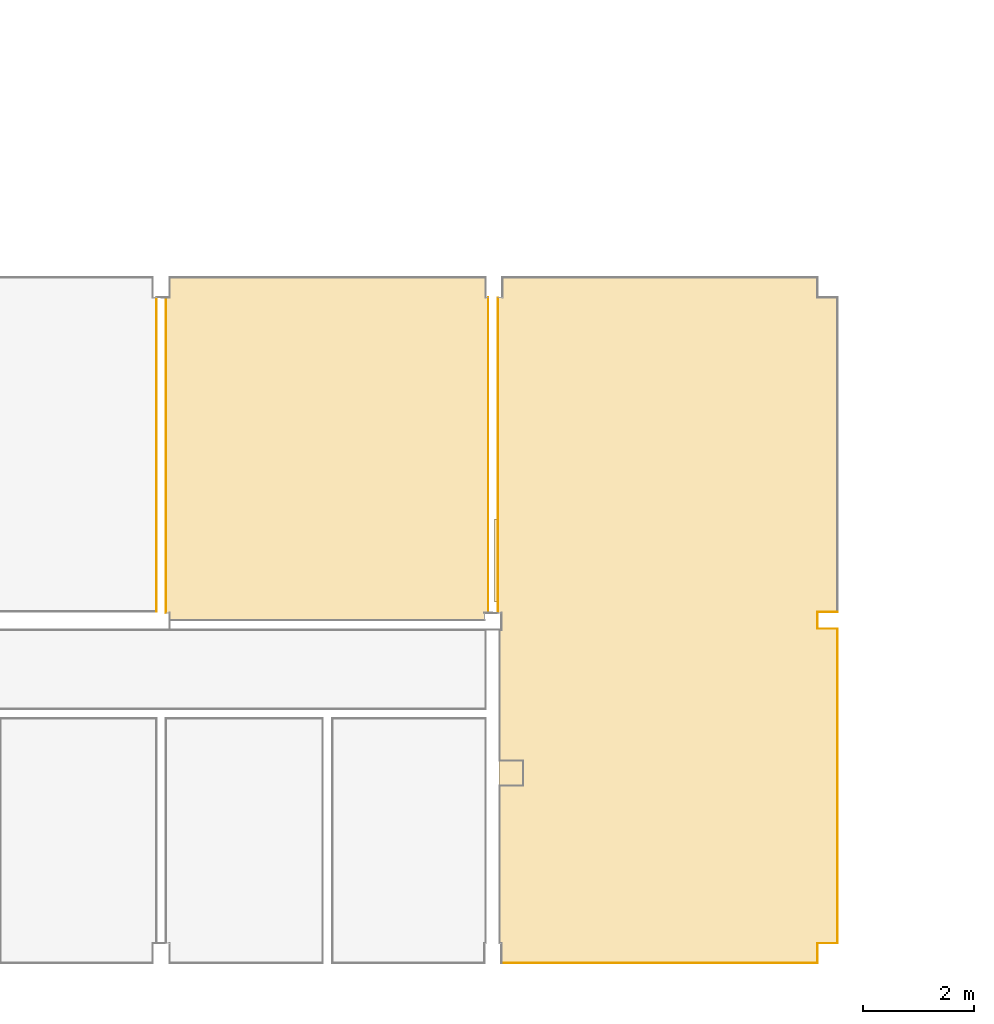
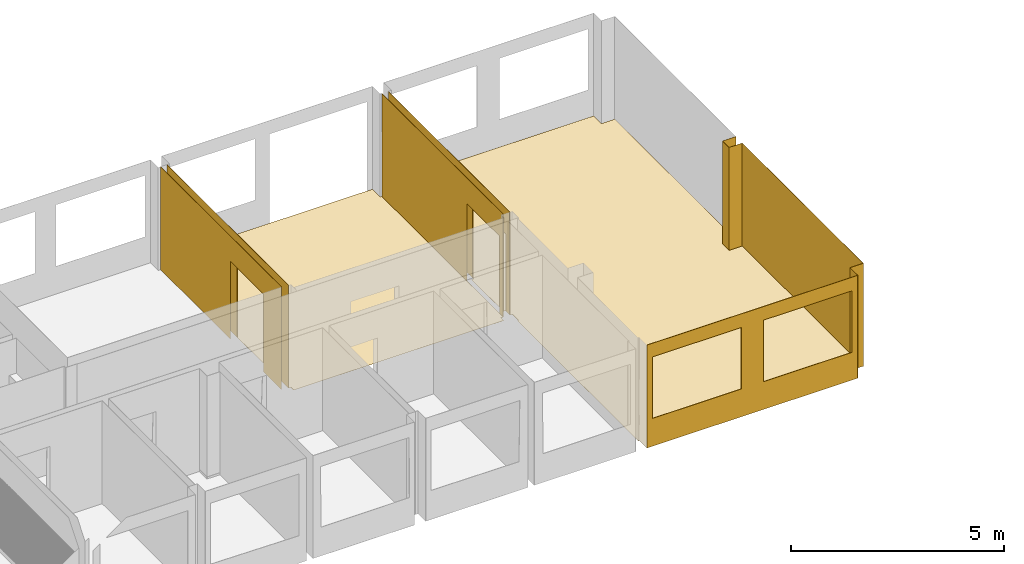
# One storey, part 22 of 33: 13 coverings, 6 openings.
"""IFC2X3 building model written with IfcOpenShell, lengths in millimetres."""

from ifc_helpers import new_model, entity, si_unit, converted_unit, derived_unit, money_unit, direction, frame, origin_with_axes, origin_2d_with_axis, place, context, subcontext, project, spatial, polyline, rectangle, outline, extrude, material, type_object, element, save


model = new_model("IFC2X3")

# Units and contexts
model_context = context("Model", 3, precision=0.01, world=origin_with_axes(), true_north=direction((0.0, 1.0)))
body_context = subcontext(model_context, "Body", "Model", "MODEL_VIEW")
ifc_project = project(units=[si_unit("LENGTHUNIT", "METRE", prefix="MILLI"), si_unit("AREAUNIT", "SQUARE_METRE"), si_unit("VOLUMEUNIT", "CUBIC_METRE"), converted_unit("PLANEANGLEUNIT", "DEGREE", entity("IfcPlaneAngleMeasure", 0.0174532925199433), si_unit("PLANEANGLEUNIT", "RADIAN"), dimensions=[0, 0, 0, 0, 0, 0, 0]), money_unit("EUR"), converted_unit("TIMEUNIT", "Year", entity("IfcTimeMeasure", 31556926.0), si_unit("TIMEUNIT", "SECOND"), dimensions=[0, 0, 1, 0, 0, 0, 0]), si_unit("MASSUNIT", "GRAM", prefix="KILO"), si_unit("THERMODYNAMICTEMPERATUREUNIT", "DEGREE_CELSIUS"), si_unit("LUMINOUSINTENSITYUNIT", "LUMEN"), si_unit("ENERGYUNIT", "JOULE", prefix="MEGA"), derived_unit("THERMALCONDUCTANCEUNIT", [(si_unit("POWERUNIT", "WATT"), 1), (si_unit("LENGTHUNIT", "METRE"), -1), (si_unit("THERMODYNAMICTEMPERATUREUNIT", "KELVIN"), -1)]), derived_unit("SPECIFICHEATCAPACITYUNIT", [(si_unit("ENERGYUNIT", "JOULE"), 1), (si_unit("MASSUNIT", "GRAM", prefix="KILO"), -1), (si_unit("THERMODYNAMICTEMPERATUREUNIT", "KELVIN"), -1)]), derived_unit("MASSDENSITYUNIT", [(si_unit("MASSUNIT", "GRAM", prefix="KILO"), 1), (si_unit("VOLUMEUNIT", "CUBIC_METRE"), -1)])], contexts=[model_context])

# Site, building, storey
site_placement = place(None, origin_with_axes())
site = spatial("IfcSite", under=ifc_project, at=site_placement, Name="Paldiski mnt 245/1, Tallinn, Harjumaa", CompositionType="COMPLEX")
building_placement = place(site_placement, origin_with_axes())
building = spatial("IfcBuilding", under=site, at=building_placement, Name="RKAS Hoone üldnimetus (kasutust iseloomustav) -> IFC Project Manager -> SOLIBRI", CompositionType="ELEMENT")
storey_placement = place(building_placement, origin_with_axes())
storey = spatial("IfcBuildingStorey", under=building, at=storey_placement, Name="Esimene korrus", CompositionType="ELEMENT", Elevation=0.0)

# Coverings
ifc_material_1 = material(Name="SA- Värv SM5(valge)")
covering_type_1 = type_object("IfcCoveringType", Name="SA- Värv SM5(valge) 5", PredefinedType="CLADDING")
covering_1_placement = place(storey_placement, frame((-17230.00000000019, -6459.999999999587, 0.0), z_axis=(0.0, 0.0, 1.0), x_axis=(-1.0, 0.0, 0.0)))
element("IfcCovering", 1, at=covering_1_placement, inside=storey, type_object=covering_type_1, material=ifc_material_1, Name="SM5", PredefinedType="CLADDING", context=body_context, shape_type="SweptSolid", body=[
    extrude(outline(polyline([(0.0, 0.0), (359.9999999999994, 0.0), (364.9999999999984, 4.999999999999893), (0.0, 4.999999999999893), (0.0, 0.0)])), origin_with_axes(), (0.0, 0.0, 1.0), 2950.0),
])
covering_2_placement = place(storey_placement, frame((-17590.00000000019, -6459.999999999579, 0.0), z_axis=(0.0, 0.0, 1.0), x_axis=(0.0, 1.0, 0.0)))
element("IfcCovering", 2, at=covering_2_placement, inside=storey, type_object=covering_type_1, material=ifc_material_1, Name="SM5", PredefinedType="CLADDING", context=body_context, shape_type="SweptSolid", body=[
    extrude(outline(polyline([(0.0, 0.0), (300.0000000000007, 0.0), (305.0000000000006, 4.999999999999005), (-4.999999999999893, 4.999999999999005), (0.0, 0.0)])), origin_with_axes(), (0.0, 0.0, 1.0), 2950.0),
])
covering_3_placement = place(storey_placement, frame((-17590.0000000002, -6159.999999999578, 0.0), z_axis=(0.0, 0.0, 1.0), x_axis=(1.0, 0.0, 0.0)))
element("IfcCovering", 3, at=covering_3_placement, inside=storey, type_object=covering_type_1, material=ifc_material_1, Name="SM5", PredefinedType="CLADDING", context=body_context, shape_type="SweptSolid", body=[
    extrude(outline(polyline([(0.0, 0.0), (360.0000000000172, 0.0), (360.0000000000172, 4.999999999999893), (-4.999999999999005, 4.999999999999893), (0.0, 0.0)])), origin_with_axes(), (0.0, 0.0, 1.0), 2950.0),
])

# Covering, opening
covering_4_placement = place(storey_placement, frame((-29545.00000000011, -6154.000015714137, 0.0), z_axis=(0.0, 0.0, 1.0), x_axis=(0.0, 1.0, 0.0)))
covering_4 = element("IfcCovering", 4, at=covering_4_placement, inside=storey, type_object=covering_type_1, material=ifc_material_1, Name="SM5", PredefinedType="CLADDING", context=body_context, shape_type="SweptSolid", body=[
    extrude(outline(polyline([(0.0, 0.0), (5684.000015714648, 0.0), (5679.000015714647, 4.999999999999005), (0.0, 4.999999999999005), (0.0, 0.0)])), origin_with_axes(), (0.0, 0.0, 1.0), 2950.0),
])
opening_1_placement = place(covering_4_placement, frame((6154.000015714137, -29545.00000000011, 0.0), z_axis=(0.0, 0.0, 1.0), x_axis=(0.0, -1.0, 0.0)))
element("IfcOpeningElement", 5, at=opening_1_placement, cuts=covering_4, Name="AVA", ObjectType="OPENING", context=body_context, shape_type="SweptSolid", body=[
    extrude(rectangle(XDim=1553.138941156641, YDim=2235.345721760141, at=origin_2d_with_axis()), frame((-29539.99999999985, -4533.601864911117, 1114.853377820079), z_axis=(1.0, 0.0, 0.0), x_axis=(0.0, 1.0, 0.0)), (0.0, 0.0, -1.0), 15.00000000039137),
])

covering_5_placement = place(storey_placement, frame((-29374.99999999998, -469.9999999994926, 0.0), z_axis=(0.0, 0.0, 1.0), x_axis=(0.0, -1.0, 0.0)))
covering_5 = element("IfcCovering", 6, at=covering_5_placement, inside=storey, type_object=covering_type_1, material=ifc_material_1, Name="SM5", PredefinedType="CLADDING", context=body_context, shape_type="SweptSolid", body=[
    extrude(outline(polyline([(4.999999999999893, 0.0), (5710.000015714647, 0.0), (5705.000014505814, 4.999999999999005), (4.999999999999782, 4.999999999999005), (4.999999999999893, 0.0)])), origin_with_axes(), (0.0, 0.0, 1.0), 2950.0),
])
opening_2_placement = place(covering_5_placement, frame((-469.9999999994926, 29374.99999999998, 0.0), z_axis=(0.0, 0.0, 1.0), x_axis=(0.0, 1.0, 0.0)))
element("IfcOpeningElement", 7, at=opening_2_placement, cuts=covering_5, Name="AVA", ObjectType="OPENING", context=body_context, shape_type="SweptSolid", body=[
    extrude(rectangle(XDim=1599.655916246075, YDim=2246.900341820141, at=origin_2d_with_axis()), frame((-29380.00000000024, -4572.605032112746, 1104.397825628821), z_axis=(-1.0, 0.0, 0.0), x_axis=(0.0, -1.0, 0.0)), (0.0, 0.0, -1.0), 15.00000000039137),
])

covering_6_placement = place(storey_placement, frame((-23545.0000000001, -6179.999999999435, 0.0), z_axis=(0.0, 0.0, 1.0), x_axis=(1.282268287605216e-08, 1.0, 0.0)))
covering_6 = element("IfcCovering", 8, at=covering_6_placement, inside=storey, type_object=covering_type_1, material=ifc_material_1, Name="SM5", PredefinedType="CLADDING", context=body_context, shape_type="SweptSolid", body=[
    extrude(outline(polyline([(4.999999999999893, 0.0), (5709.999856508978, 0.0), (5704.99987238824, 4.999999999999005), (4.999999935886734, 5.000000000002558), (4.999999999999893, 0.0)])), origin_with_axes(), (0.0, 0.0, 1.0), 2950.0),
])
opening_3_placement = place(covering_6_placement, frame((6180.000301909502, -23544.99992075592, 0.0), z_axis=(0.0, 0.0, 1.0), x_axis=(1.282268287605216e-08, -1.0, 0.0)))
element("IfcOpeningElement", 9, at=opening_3_placement, cuts=covering_6, Name="AVA", ObjectType="OPENING", context=body_context, shape_type="SweptSolid", body=[
    extrude(rectangle(XDim=1537.269093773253, YDim=2216.009422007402, at=origin_2d_with_axis()), frame((-23539.99985356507, -5238.080696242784, 1110.797736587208), z_axis=(1.0, -1.282268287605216e-08, 0.0), x_axis=(1.282268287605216e-08, 1.0, 0.0)), (0.0, 0.0, -1.0), 15.00021965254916),
])

covering_7_placement = place(storey_placement, frame((-23375.0000371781, -470.0000148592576, 0.0), z_axis=(0.0, 0.0, 1.0), x_axis=(6.511032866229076e-09, -1.0, 0.0)))
covering_7 = element("IfcCovering", 10, at=covering_7_placement, inside=storey, type_object=covering_type_1, material=ifc_material_1, Name="SM5", PredefinedType="CLADDING", context=body_context, shape_type="SweptSolid", body=[
    extrude(outline(polyline([(4.999999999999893, 0.0), (5709.99998514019, 0.0), (5704.999985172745, 5.000000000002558), (4.9999991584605, 4.999999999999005), (4.999999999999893, 0.0)])), origin_with_axes(), (0.0, 0.0, 1.0), 2950.0),
])
opening_4_placement = place(covering_7_placement, frame((-469.9998626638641, 23375.00004023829, 0.0), z_axis=(0.0, 0.0, 1.0), x_axis=(6.511032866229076e-09, 1.0, 0.0)))
element("IfcOpeningElement", 11, at=opening_4_placement, cuts=covering_7, Name="AVA", ObjectType="OPENING", context=body_context, shape_type="SweptSolid", body=[
    extrude(rectangle(XDim=1561.764127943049, YDim=2226.43972239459, at=origin_2d_with_axis()), frame((-23380.0000743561, -5218.545088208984, 1098.145229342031), z_axis=(-1.0, -6.511032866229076e-09, 0.0), x_axis=(6.511032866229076e-09, -1.0, 0.0)), (0.0, 0.0, -1.0), 15.00011153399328),
])

# Coverings
ifc_material_2 = material(Name="SA- PM-8 EPO lakk")
covering_type_2 = type_object("IfcCoveringType", Name="SA- PM-8 EPO lakk 1", PredefinedType="FLOORING")
covering_8_placement = place(storey_placement, frame((-17590.00000000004, -109.9999999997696, 0.0), z_axis=(0.0, 0.0, 1.0), x_axis=(1.0, 0.0, 0.0)))
element("IfcCovering", 12, at=covering_8_placement, inside=storey, type_object=covering_type_2, material=ifc_material_2, Name="PM-8", PredefinedType="FLOORING", context=body_context, shape_type="SweptSolid", body=[
    extrude(outline(polyline([(0.0, 0.0), (-5699.999999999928, 1.348365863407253e-10), (-5699.999999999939, -359.9999999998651), (-5785.000037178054, -360.000014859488), (-5785.000000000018, -4369.999914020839), (-5839.773978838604, -4369.999914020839), (-5839.773978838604, -5869.999914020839), (-5785.000000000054, -5869.999914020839), (-5785.000000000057, -6069.999999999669), (-5720.00000000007, -6069.999999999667), (-5720.000000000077, -6369.999999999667), (-5750.000000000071, -6369.999999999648), (-5750.000000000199, -12040.08408706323), (-5720.000000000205, -12040.08408706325), (-5720.000000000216, -12400.08408706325), (-2.842170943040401e-10, -12400.08430108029), (-2.771116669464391e-10, -12040.08430108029), (359.9999999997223, -12040.0843010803), (359.9999999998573, -6349.999999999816), (-1.4210854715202e-10, -6349.999999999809), (-1.35003119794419e-10, -6049.999999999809), (359.9999999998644, -6049.999999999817), (359.9999999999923, -360.0000000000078), (0.0, -359.9999999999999), (0.0, 0.0)])), origin_with_axes(), (0.0, 0.0, 1.0), 1.0),
])
covering_9_placement = place(storey_placement, frame((-29374.99993145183, -4479.999641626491, 0.0), z_axis=(0.0, 0.0, 1.0), x_axis=(1.0, 0.0, 0.0)))
element("IfcCovering", 13, at=covering_9_placement, inside=storey, type_object=covering_type_2, material=ifc_material_2, Name="PM-8", PredefinedType="FLOORING", context=body_context, shape_type="SweptSolid", body=[
    extrude(outline(polyline([(0.0, 0.0), (0.0, -1500.000008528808), (0.0, -1700.000231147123), (65.85887259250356, -1700.000231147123), (64.99993145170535, -1830.000358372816), (5764.999969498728, -1830.000390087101), (5764.999969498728, -1700.000420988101), (5830.00000150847, -1700.000420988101), (5830.00000150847, 4009.999769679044), (5784.999811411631, 4009.999769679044), (5784.999811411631, 4369.999866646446), (64.99984216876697, 4369.999866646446), (64.99984216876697, 4009.999769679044), (0.0, 4009.999769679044), (0.0, 0.0)])), origin_with_axes(), (0.0, 0.0, 1.0), 1.0),
])

# Covering, openings
ifc_material_3 = material(Name="SA- Värv SM12(tolmutõke)")
covering_type_3 = type_object("IfcCoveringType", Name="SA- Värv SM12(tolmutõke) 5", PredefinedType="CLADDING")
covering_10_placement = place(storey_placement, frame((-23310.00000000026, -12510.08408706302, 0.0), z_axis=(0.0, 0.0, 1.0), x_axis=(0.9999999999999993, -3.741556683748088e-08, 0.0)))
covering_10 = element("IfcCovering", 14, at=covering_10_placement, inside=storey, type_object=covering_type_3, material=ifc_material_3, Name="SM12", PredefinedType="CLADDING", context=body_context, shape_type="SweptSolid", body=[
    extrude(outline(polyline([(0.0, 0.0), (5719.999999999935, 0.0), (5719.999999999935, 5.000000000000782), (0.0, 5.000000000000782), (0.0, 0.0)])), origin_with_axes(), (0.0, 0.0, 1.0), 2950.0),
])
opening_5_placement = place(covering_10_placement, frame((23309.99953192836, 12510.08495921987, 0.0), z_axis=(0.0, 0.0, 1.0), x_axis=(0.9999999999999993, 3.741556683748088e-08, 0.0)))
element("IfcOpeningElement", 15, at=opening_5_placement, cuts=covering_10, Name="AVA", ObjectType="OPENING", context=body_context, shape_type="SweptSolid", body=[
    extrude(rectangle(XDim=2403.201955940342, YDim=1764.371410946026, at=origin_2d_with_axis()), frame((-18950.79820443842, -12515.0845150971, 1677.814294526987), z_axis=(-3.741556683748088e-08, -0.9999999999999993, 0.0), x_axis=(0.9999999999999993, -3.741556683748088e-08, 0.0)), (0.0, 0.0, -1.0), 15.00064205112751),
])
opening_6_placement = place(covering_10_placement, frame((23309.99953192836, 12510.08495921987, 0.0), z_axis=(0.0, 0.0, 1.0), x_axis=(0.9999999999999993, 3.741556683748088e-08, 0.0)))
element("IfcOpeningElement", 16, at=opening_6_placement, cuts=covering_10, Name="AVA", ObjectType="OPENING", context=body_context, shape_type="SweptSolid", body=[
    extrude(rectangle(XDim=2403.201955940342, YDim=1764.371410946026, at=origin_2d_with_axis()), frame((-21951.0892066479, -12515.0845150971, 1677.814294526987), z_axis=(-3.741556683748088e-08, -0.9999999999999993, 0.0), x_axis=(0.9999999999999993, -3.741556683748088e-08, 0.0)), (0.0, 0.0, -1.0), 15.00064205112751),
])

# Coverings
covering_11_placement = place(storey_placement, frame((-17590.00000000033, -12510.08430108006, 0.0), z_axis=(0.0, 0.0, 1.0), x_axis=(0.0, 1.0, 0.0)))
element("IfcCovering", 17, at=covering_11_placement, inside=storey, type_object=covering_type_3, material=ifc_material_3, Name="SM12", PredefinedType="CLADDING", context=body_context, shape_type="SweptSolid", body=[
    extrude(outline(polyline([(0.0, 0.0), (359.9999999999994, 0.0), (364.9999999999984, 5.000000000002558), (0.0, 4.999999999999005), (0.0, 0.0)])), origin_with_axes(), (0.0, 0.0, 1.0), 2950.0),
])
covering_12_placement = place(storey_placement, frame((-17590.00000000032, -12150.08430108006, 0.0), z_axis=(0.0, 0.0, 1.0), x_axis=(1.0, 0.0, 0.0)))
element("IfcCovering", 18, at=covering_12_placement, inside=storey, type_object=covering_type_3, material=ifc_material_3, Name="SM12", PredefinedType="CLADDING", context=body_context, shape_type="SweptSolid", body=[
    extrude(outline(polyline([(0.0, 0.0), (360.000000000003, 0.0), (359.9999999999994, 5.000000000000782), (-4.999999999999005, 4.999999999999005), (0.0, 0.0)])), origin_with_axes(), (0.0, 0.0, 1.0), 2950.0),
])
covering_13_placement = place(storey_placement, frame((-17230.00000000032, -12150.08430108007, 0.0), z_axis=(0.0, 0.0, 1.0), x_axis=(0.0, 1.0, 0.0)))
element("IfcCovering", 19, at=covering_13_placement, inside=storey, type_object=covering_type_3, material=ifc_material_3, Name="SM12", PredefinedType="CLADDING", context=body_context, shape_type="SweptSolid", body=[
    extrude(outline(polyline([(0.0, 0.0), (5690.08430108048, 0.0), (5690.08430108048, 4.999999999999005), (0.0, 4.999999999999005), (0.0, 0.0)])), origin_with_axes(), (0.0, 0.0, 1.0), 2950.0),
])

save(model, "model.ifc")
